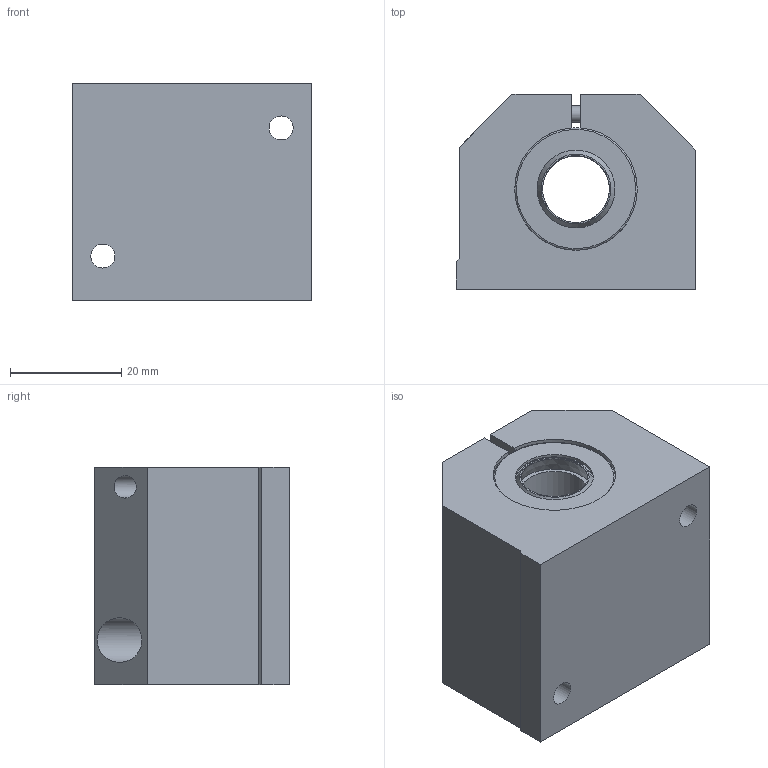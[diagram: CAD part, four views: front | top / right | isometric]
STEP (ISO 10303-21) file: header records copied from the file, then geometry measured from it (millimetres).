
FILE_DESCRIPTION(('STEP AP203'),'1');
FILE_NAME('//192.168.1.1/share/s-4 技術開発/s-4-4_CAD/s-4-4-3_見直し済み/008 修正済み/SLS(済)/SLS_TOP/SLS-12.step','2022-03-09T07:11:47',(' '),(' '),'Spatial InterOp 3D',' ',' ');
FILE_SCHEMA(('CONFIG_CONTROL_DESIGN'));
Length unit declared in the file: millimetre
Products named in the file (1): 1
Bounding box: 43 x 35 x 39 mm (x, y, z)
Volume: 46457.4 mm3; surface area: 13260.1 mm2
Topology: 1 solids, 1 shells, 91 faces, 210 edges, 133 vertices
Faces by surface type: plane 41, cylinder 35, torus 8, cone 7
Full cylindrical faces by diameter (mm): 3 x2, 3.4 x1, 4 x2, 4.3 x4, 5.5 x1, 6 x1, 6.75 x2, 8 x2, 12 x3, 14 x2, 17.5 x2, 21 x2
Entity records: 2328 total; most frequent: DIRECTION 414, CARTESIAN_POINT 394, ORIENTED_EDGE 304, AXIS2_PLACEMENT_3D 171, EDGE_LOOP 158, EDGE_CURVE 152, FACE_OUTER_BOUND 123, VERTEX_POINT 117
